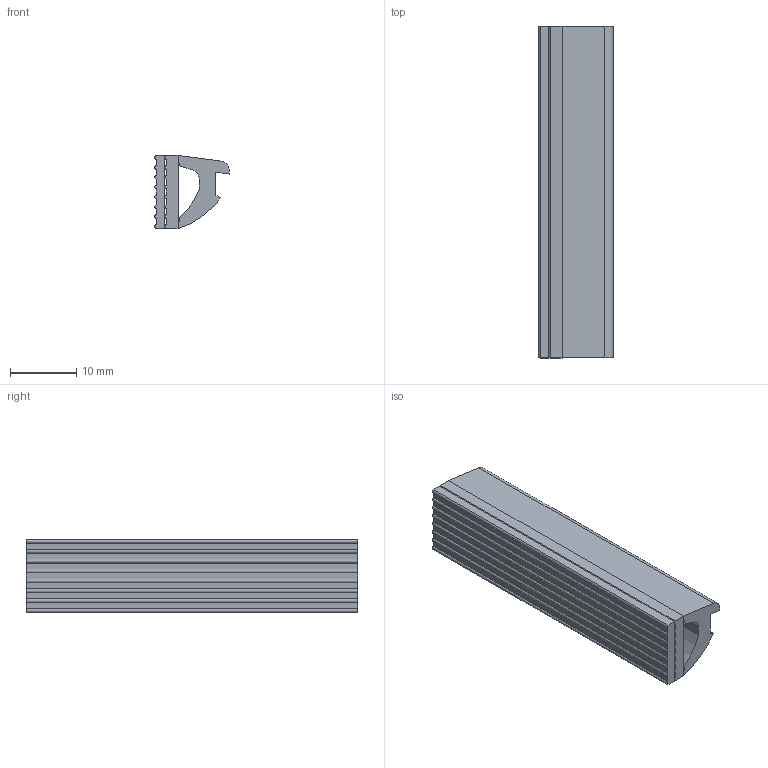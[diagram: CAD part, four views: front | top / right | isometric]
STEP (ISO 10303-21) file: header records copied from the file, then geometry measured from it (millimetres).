
FILE_DESCRIPTION(('STEP AP214'),'1');
FILE_NAME('RP4C.stp','2021-05-26T09:16:41',(' '),(' '),'Spatial InterOp 3D',' ',' ');
FILE_SCHEMA(('AUTOMOTIVE_DESIGN { 1 0 10303 214 1 1 1 1 }'));
Length unit declared in the file: millimetre
Products named in the file (4): RP4C; RP4C_0; RP4C_2; RP4C_1
Assembly tree (3 placements, depth 2):
  RP4C
    RP4C_0
    RP4C_2
    RP4C_1
Bounding box: 11.2 x 50 x 11 mm (x, y, z)
Volume: 3647.4 mm3; surface area: 4663.4 mm2
Topology: 3 solids, 3 shells, 55 faces, 147 edges, 98 vertices
Faces by surface type: plane 35, cylinder 20
Entity records: 2246 total; most frequent: DIRECTION 305, CARTESIAN_POINT 304, ORIENTED_EDGE 294, EDGE_CURVE 147, LINE 107, VECTOR 107, AXIS2_PLACEMENT_3D 99, VERTEX_POINT 98
